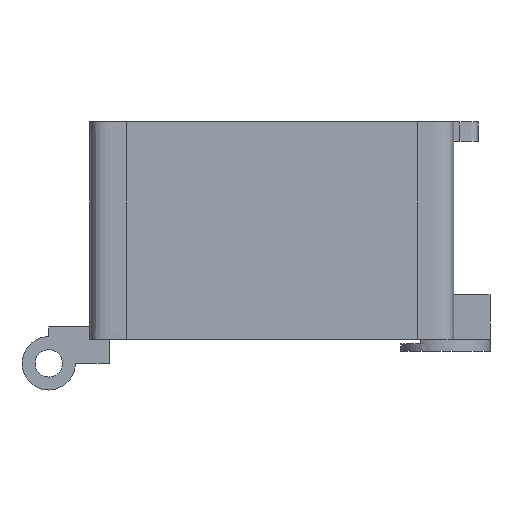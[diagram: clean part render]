
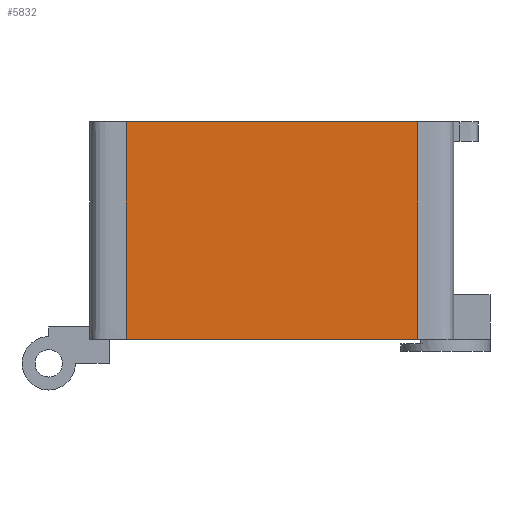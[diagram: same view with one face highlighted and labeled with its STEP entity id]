
A CAD part, left-side view. The second image highlights one B-rep face of the part: STEP entity #5832.
In plain terms, the highlighted planar face has unit normal (-1, 0, 0).
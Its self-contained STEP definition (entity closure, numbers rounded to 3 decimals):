
#122 = PLANE('',#123);
#123 = AXIS2_PLACEMENT_3D('',#124,#125,#126);
#124 = CARTESIAN_POINT('',(79.,35.,32.9));
#125 = DIRECTION('',(-0.,-0.,1.));
#126 = DIRECTION('',(-1.,0.,0.));
#752 = VERTEX_POINT('',#753);
#753 = CARTESIAN_POINT('',(67.,23.,32.9));
#815 = SURFACE_OF_LINEAR_EXTRUSION('',#816,#844);
#816 = B_SPLINE_CURVE_WITH_KNOTS('',3,(#817,#818,#819,#820,#821,#822,
    #823,#824,#825,#826,#827,#828,#829,#830,#831,#832,#833,#834,#835,
    #836,#837,#838,#839,#840,#841,#842,#843),.UNSPECIFIED.,.F.,.F.,(4,1,
    1,1,1,1,1,1,1,1,1,1,1,1,1,1,1,1,1,1,1,1,1,1,4),(0.,1.008,
    1.329,1.561,1.748,1.908,
    2.049,2.175,2.291,2.399,
    2.502,2.601,2.698,2.795,
    2.893,2.996,3.104,3.22,
    3.346,3.487,3.647,3.834,
    4.066,4.387,5.395),.UNSPECIFIED.);
#817 = CARTESIAN_POINT('',(70.,20.,15.));
#818 = CARTESIAN_POINT('',(69.659,20.,15.));
#819 = CARTESIAN_POINT('',(69.222,19.997,15.));
#820 = CARTESIAN_POINT('',(68.701,20.008,15.));
#821 = CARTESIAN_POINT('',(68.454,20.021,15.));
#822 = CARTESIAN_POINT('',(68.262,20.039,15.));
#823 = CARTESIAN_POINT('',(68.101,20.062,15.));
#824 = CARTESIAN_POINT('',(67.961,20.091,15.));
#825 = CARTESIAN_POINT('',(67.838,20.125,15.));
#826 = CARTESIAN_POINT('',(67.728,20.165,15.));
#827 = CARTESIAN_POINT('',(67.629,20.211,15.));
#828 = CARTESIAN_POINT('',(67.54,20.263,15.));
#829 = CARTESIAN_POINT('',(67.46,20.322,15.));
#830 = CARTESIAN_POINT('',(67.387,20.387,15.));
#831 = CARTESIAN_POINT('',(67.322,20.46,15.));
#832 = CARTESIAN_POINT('',(67.263,20.54,15.));
#833 = CARTESIAN_POINT('',(67.211,20.629,15.));
#834 = CARTESIAN_POINT('',(67.165,20.728,15.));
#835 = CARTESIAN_POINT('',(67.125,20.838,15.));
#836 = CARTESIAN_POINT('',(67.091,20.961,15.));
#837 = CARTESIAN_POINT('',(67.062,21.101,15.));
#838 = CARTESIAN_POINT('',(67.039,21.262,15.));
#839 = CARTESIAN_POINT('',(67.021,21.454,15.));
#840 = CARTESIAN_POINT('',(67.008,21.7,15.));
#841 = CARTESIAN_POINT('',(66.997,22.229,15.));
#842 = CARTESIAN_POINT('',(67.,22.611,15.));
#843 = CARTESIAN_POINT('',(67.,23.,15.));
#844 = VECTOR('',#845,1.);
#845 = DIRECTION('',(-0.,0.,-1.));
#853 = EDGE_CURVE('',#752,#854,#856,.T.);
#854 = VERTEX_POINT('',#855);
#855 = CARTESIAN_POINT('',(67.,47.,32.9));
#856 = SURFACE_CURVE('',#857,(#861,#868),.PCURVE_S1.);
#857 = LINE('',#858,#859);
#858 = CARTESIAN_POINT('',(67.,23.,32.9));
#859 = VECTOR('',#860,1.);
#860 = DIRECTION('',(-0.,1.,-0.));
#861 = PCURVE('',#122,#862);
#862 = DEFINITIONAL_REPRESENTATION('',(#863),#867);
#863 = LINE('',#864,#865);
#864 = CARTESIAN_POINT('',(12.,12.));
#865 = VECTOR('',#866,1.);
#866 = DIRECTION('',(-0.,-1.));
#867 = ( GEOMETRIC_REPRESENTATION_CONTEXT(2) 
PARAMETRIC_REPRESENTATION_CONTEXT() REPRESENTATION_CONTEXT('2D SPACE',''
  ) );
#868 = PCURVE('',#869,#874);
#869 = PLANE('',#870);
#870 = AXIS2_PLACEMENT_3D('',#871,#872,#873);
#871 = CARTESIAN_POINT('',(67.,23.,15.));
#872 = DIRECTION('',(1.,-0.,-0.));
#873 = DIRECTION('',(0.,-1.,0.));
#874 = DEFINITIONAL_REPRESENTATION('',(#875),#879);
#875 = LINE('',#876,#877);
#876 = CARTESIAN_POINT('',(-0.,-17.9));
#877 = VECTOR('',#878,1.);
#878 = DIRECTION('',(-1.,-0.));
#879 = ( GEOMETRIC_REPRESENTATION_CONTEXT(2) 
PARAMETRIC_REPRESENTATION_CONTEXT() REPRESENTATION_CONTEXT('2D SPACE',''
  ) );
#943 = SURFACE_OF_LINEAR_EXTRUSION('',#944,#972);
#944 = B_SPLINE_CURVE_WITH_KNOTS('',3,(#945,#946,#947,#948,#949,#950,
    #951,#952,#953,#954,#955,#956,#957,#958,#959,#960,#961,#962,#963,
    #964,#965,#966,#967,#968,#969,#970,#971),.UNSPECIFIED.,.F.,.F.,(4,1,
    1,1,1,1,1,1,1,1,1,1,1,1,1,1,1,1,1,1,1,1,1,1,4),(0.,1.008,
    1.329,1.561,1.748,1.908,
    2.049,2.175,2.291,2.399,
    2.502,2.601,2.698,2.795,
    2.893,2.996,3.104,3.22,
    3.346,3.487,3.647,3.834,
    4.066,4.387,5.395),.UNSPECIFIED.);
#945 = CARTESIAN_POINT('',(67.,47.,15.));
#946 = CARTESIAN_POINT('',(67.,47.341,15.));
#947 = CARTESIAN_POINT('',(66.997,47.778,15.));
#948 = CARTESIAN_POINT('',(67.008,48.299,15.));
#949 = CARTESIAN_POINT('',(67.021,48.546,15.));
#950 = CARTESIAN_POINT('',(67.039,48.738,15.));
#951 = CARTESIAN_POINT('',(67.062,48.899,15.));
#952 = CARTESIAN_POINT('',(67.091,49.039,15.));
#953 = CARTESIAN_POINT('',(67.125,49.162,15.));
#954 = CARTESIAN_POINT('',(67.165,49.272,15.));
#955 = CARTESIAN_POINT('',(67.211,49.371,15.));
#956 = CARTESIAN_POINT('',(67.263,49.46,15.));
#957 = CARTESIAN_POINT('',(67.322,49.54,15.));
#958 = CARTESIAN_POINT('',(67.387,49.613,15.));
#959 = CARTESIAN_POINT('',(67.46,49.678,15.));
#960 = CARTESIAN_POINT('',(67.54,49.737,15.));
#961 = CARTESIAN_POINT('',(67.629,49.789,15.));
#962 = CARTESIAN_POINT('',(67.728,49.835,15.));
#963 = CARTESIAN_POINT('',(67.838,49.875,15.));
#964 = CARTESIAN_POINT('',(67.961,49.909,15.));
#965 = CARTESIAN_POINT('',(68.101,49.938,15.));
#966 = CARTESIAN_POINT('',(68.262,49.961,15.));
#967 = CARTESIAN_POINT('',(68.454,49.979,15.));
#968 = CARTESIAN_POINT('',(68.7,49.992,15.));
#969 = CARTESIAN_POINT('',(69.229,50.003,15.));
#970 = CARTESIAN_POINT('',(69.611,50.,15.));
#971 = CARTESIAN_POINT('',(70.,50.,15.));
#972 = VECTOR('',#973,1.);
#973 = DIRECTION('',(-0.,0.,-1.));
#984 = EDGE_CURVE('',#985,#854,#987,.T.);
#985 = VERTEX_POINT('',#986);
#986 = CARTESIAN_POINT('',(67.,47.,15.));
#987 = SURFACE_CURVE('',#988,(#992,#999),.PCURVE_S1.);
#988 = LINE('',#989,#990);
#989 = CARTESIAN_POINT('',(67.,47.,15.));
#990 = VECTOR('',#991,1.);
#991 = DIRECTION('',(-0.,-0.,1.));
#992 = PCURVE('',#943,#993);
#993 = DEFINITIONAL_REPRESENTATION('',(#994),#998);
#994 = LINE('',#995,#996);
#995 = CARTESIAN_POINT('',(0.,0.));
#996 = VECTOR('',#997,1.);
#997 = DIRECTION('',(0.,-1.));
#998 = ( GEOMETRIC_REPRESENTATION_CONTEXT(2) 
PARAMETRIC_REPRESENTATION_CONTEXT() REPRESENTATION_CONTEXT('2D SPACE',''
  ) );
#999 = PCURVE('',#869,#1000);
#1000 = DEFINITIONAL_REPRESENTATION('',(#1001),#1005);
#1001 = LINE('',#1002,#1003);
#1002 = CARTESIAN_POINT('',(-24.,0.));
#1003 = VECTOR('',#1004,1.);
#1004 = DIRECTION('',(-0.,-1.));
#1005 = ( GEOMETRIC_REPRESENTATION_CONTEXT(2) 
PARAMETRIC_REPRESENTATION_CONTEXT() REPRESENTATION_CONTEXT('2D SPACE',''
  ) );
#1069 = PLANE('',#1070);
#1070 = AXIS2_PLACEMENT_3D('',#1071,#1072,#1073);
#1071 = CARTESIAN_POINT('',(79.,35.,15.));
#1072 = DIRECTION('',(-0.,-0.,1.));
#1073 = DIRECTION('',(-1.,0.,0.));
#1223 = VERTEX_POINT('',#1224);
#1224 = CARTESIAN_POINT('',(67.,23.,15.));
#1293 = EDGE_CURVE('',#1223,#985,#1294,.T.);
#1294 = SURFACE_CURVE('',#1295,(#1299,#1306),.PCURVE_S1.);
#1295 = LINE('',#1296,#1297);
#1296 = CARTESIAN_POINT('',(67.,23.,15.));
#1297 = VECTOR('',#1298,1.);
#1298 = DIRECTION('',(-0.,1.,-0.));
#1299 = PCURVE('',#1069,#1300);
#1300 = DEFINITIONAL_REPRESENTATION('',(#1301),#1305);
#1301 = LINE('',#1302,#1303);
#1302 = CARTESIAN_POINT('',(12.,12.));
#1303 = VECTOR('',#1304,1.);
#1304 = DIRECTION('',(-0.,-1.));
#1305 = ( GEOMETRIC_REPRESENTATION_CONTEXT(2) 
PARAMETRIC_REPRESENTATION_CONTEXT() REPRESENTATION_CONTEXT('2D SPACE',''
  ) );
#1306 = PCURVE('',#869,#1307);
#1307 = DEFINITIONAL_REPRESENTATION('',(#1308),#1312);
#1308 = LINE('',#1309,#1310);
#1309 = CARTESIAN_POINT('',(-0.,0.));
#1310 = VECTOR('',#1311,1.);
#1311 = DIRECTION('',(-1.,-0.));
#1312 = ( GEOMETRIC_REPRESENTATION_CONTEXT(2) 
PARAMETRIC_REPRESENTATION_CONTEXT() REPRESENTATION_CONTEXT('2D SPACE',''
  ) );
#5832 = ADVANCED_FACE('',(#5833),#869,.F.);
#5833 = FACE_BOUND('',#5834,.T.);
#5834 = EDGE_LOOP('',(#5835,#5856,#5857,#5858));
#5835 = ORIENTED_EDGE('',*,*,#5836,.T.);
#5836 = EDGE_CURVE('',#1223,#752,#5837,.T.);
#5837 = SURFACE_CURVE('',#5838,(#5842,#5849),.PCURVE_S1.);
#5838 = LINE('',#5839,#5840);
#5839 = CARTESIAN_POINT('',(67.,23.,15.));
#5840 = VECTOR('',#5841,1.);
#5841 = DIRECTION('',(-0.,-0.,1.));
#5842 = PCURVE('',#869,#5843);
#5843 = DEFINITIONAL_REPRESENTATION('',(#5844),#5848);
#5844 = LINE('',#5845,#5846);
#5845 = CARTESIAN_POINT('',(-0.,0.));
#5846 = VECTOR('',#5847,1.);
#5847 = DIRECTION('',(-0.,-1.));
#5848 = ( GEOMETRIC_REPRESENTATION_CONTEXT(2) 
PARAMETRIC_REPRESENTATION_CONTEXT() REPRESENTATION_CONTEXT('2D SPACE',''
  ) );
#5849 = PCURVE('',#815,#5850);
#5850 = DEFINITIONAL_REPRESENTATION('',(#5851),#5855);
#5851 = LINE('',#5852,#5853);
#5852 = CARTESIAN_POINT('',(5.395,0.));
#5853 = VECTOR('',#5854,1.);
#5854 = DIRECTION('',(0.,-1.));
#5855 = ( GEOMETRIC_REPRESENTATION_CONTEXT(2) 
PARAMETRIC_REPRESENTATION_CONTEXT() REPRESENTATION_CONTEXT('2D SPACE',''
  ) );
#5856 = ORIENTED_EDGE('',*,*,#853,.T.);
#5857 = ORIENTED_EDGE('',*,*,#984,.F.);
#5858 = ORIENTED_EDGE('',*,*,#1293,.F.);
